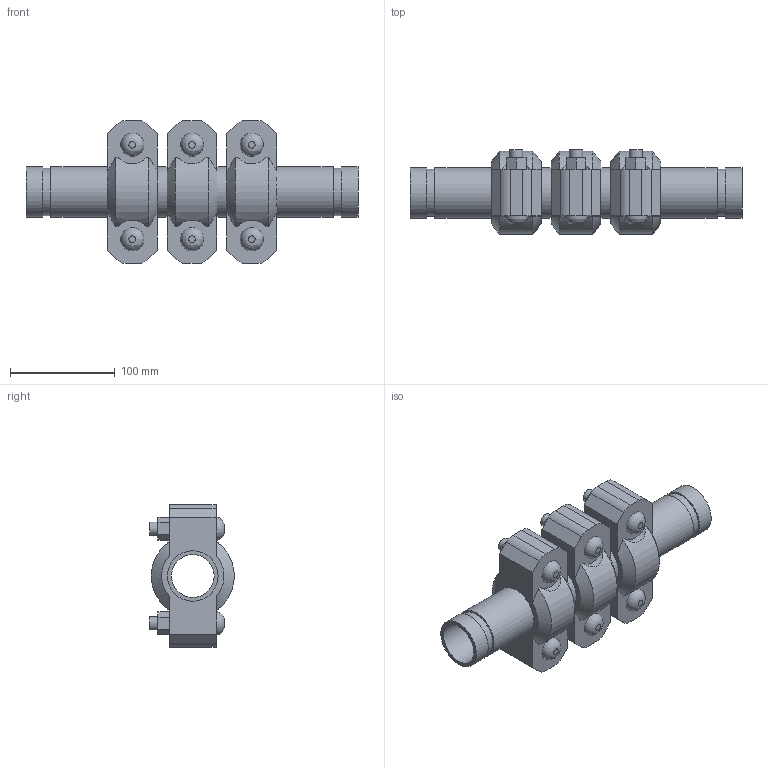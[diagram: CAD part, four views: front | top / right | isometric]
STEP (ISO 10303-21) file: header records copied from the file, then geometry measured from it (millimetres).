
FILE_DESCRIPTION(/* description */ ('VIC EXPANSION JOINT 3 COUPLINGS COMPRESSED STYLE 155 (OGS)','CAx-IF Rec.Pracs.---Representation and Presentation of Product Manufacturing Information (PMI)---4.0---2014-10-13'),/* implementation_level */ '2;1');
FILE_NAME(/* name */ 'C:\Users\kkamble\AppData\Roaming\Autodesk\ApplicationPlugins\Victaulic.Temp\A971\Victaulic_IPS_Expansion Joint_Compressed_3 Couplings_Style 155 (OGS)_1.5 (40).stp',/* time_stamp */ '2021-06-27T00:25:09+02:00',/* author */ ('kkamble'),/* organization */ ('Victaulic'),/* preprocessor_version */ 'ST-DEVELOPER v17.2',/* originating_system */ 'Autodesk Inventor 2019',/* authorisation */ '');
FILE_SCHEMA (('AP242_MANAGED_MODEL_BASED_3D_ENGINEERING_MIM_LF { 1 0 10303 442 1 1 4 }'));
Length unit declared in the file: inch
Products named in the file (4): 155-01.5; Nipple-01.5; Nipple-01.5_1; 077-01.5
Assembly tree (7 placements, depth 2):
  155-01.5
    Nipple-01.5  x2
    Nipple-01.5_1  x2
    077-01.5  x3
Bounding box: 317.5 x 81.03 x 136.65 mm (x, y, z)
Volume: 938573.3 mm3; surface area: 230261.6 mm2
Topology: 7 solids, 13 shells, 219 faces, 537 edges, 378 vertices
Faces by surface type: plane 126, cylinder 75, cone 12, bspline 6
Full cylindrical faces by diameter (mm): 12.7 x12, 14.605 x6, 40.894 x4, 45.085 x8, 48.26 x15
Entity records: 2891 total; most frequent: CARTESIAN_POINT 585, DIRECTION 459, ORIENTED_EDGE 398, EDGE_CURVE 199, AXIS2_PLACEMENT_3D 182, VERTEX_POINT 142, EDGE_LOOP 105, LINE 95
